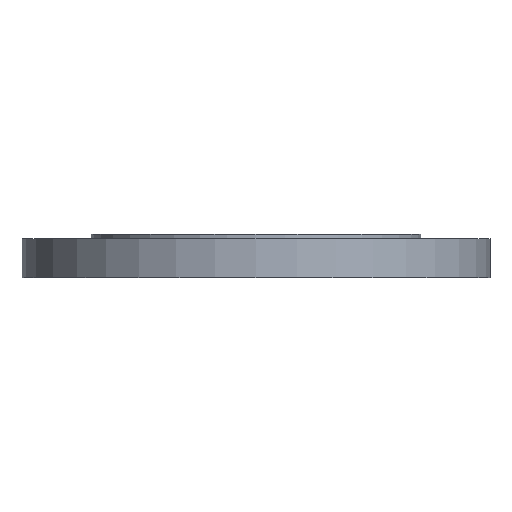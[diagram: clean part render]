
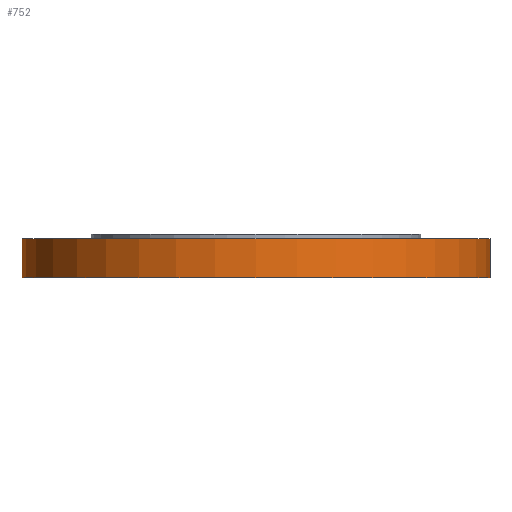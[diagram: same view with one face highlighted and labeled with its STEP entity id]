
A CAD part, front view. The second image highlights one B-rep face of the part: STEP entity #752.
In plain terms, the highlighted cylindrical face has radius 257.5 mm (diameter 515 mm), a partial arc.
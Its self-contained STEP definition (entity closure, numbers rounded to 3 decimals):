
#17 = VERTEX_POINT ( 'NONE', #1471 ) ;
#55 = VERTEX_POINT ( 'NONE', #1458 ) ;
#73 = VERTEX_POINT ( 'NONE', #1437 ) ;
#163 = ORIENTED_EDGE ( 'NONE', *, *, #1019, .F. ) ;
#164 = ORIENTED_EDGE ( 'NONE', *, *, #1135, .F. ) ;
#169 = ORIENTED_EDGE ( 'NONE', *, *, #319, .T. ) ;
#172 = ORIENTED_EDGE ( 'NONE', *, *, #324, .T. ) ;
#319 = EDGE_CURVE ( 'NONE', #55, #1123, #1333, .T. ) ;
#324 = EDGE_CURVE ( 'NONE', #1123, #73, #551, .T. ) ;
#513 = VECTOR ( 'NONE', #1327, 1000. ) ;
#519 = VECTOR ( 'NONE', #885, 1000. ) ;
#551 = CIRCLE ( 'NONE', #591, 257.5 ) ;
#553 = EDGE_LOOP ( 'NONE', ( #163, #164, #169, #172 ) ) ;
#590 = AXIS2_PLACEMENT_3D ( 'NONE', #1163, #1162, #1161 ) ;
#591 = AXIS2_PLACEMENT_3D ( 'NONE', #1326, #1324, #1323 ) ;
#752 = ADVANCED_FACE ( 'NONE', ( #1165 ), #1164, .T. ) ;
#763 = DIRECTION ( 'NONE',  ( -1., 0., 0. ) ) ;
#765 = DIRECTION ( 'NONE',  ( 0., 0., -1. ) ) ;
#766 = CARTESIAN_POINT ( 'NONE',  ( 0., 0., -48. ) ) ;
#773 = CARTESIAN_POINT ( 'NONE',  ( 257.5, 0., -5. ) ) ;
#885 = DIRECTION ( 'NONE',  ( 0., 0., 1. ) ) ;
#886 = CARTESIAN_POINT ( 'NONE',  ( -257.5, 0., -125. ) ) ;
#888 = LINE ( 'NONE', #886, #519 ) ;
#1019 = EDGE_CURVE ( 'NONE', #17, #73, #888, .T. ) ;
#1071 = AXIS2_PLACEMENT_3D ( 'NONE', #766, #765, #763 ) ;
#1074 = CIRCLE ( 'NONE', #1071, 257.5 ) ;
#1123 = VERTEX_POINT ( 'NONE', #773 ) ;
#1135 = EDGE_CURVE ( 'NONE', #55, #17, #1074, .T. ) ;
#1161 = DIRECTION ( 'NONE',  ( 1., 0., 0. ) ) ;
#1162 = DIRECTION ( 'NONE',  ( 0., 0., 1. ) ) ;
#1163 = CARTESIAN_POINT ( 'NONE',  ( 0., 0., -125. ) ) ;
#1164 = CYLINDRICAL_SURFACE ( 'NONE', #590, 257.5 ) ;
#1165 = FACE_OUTER_BOUND ( 'NONE', #553, .T. ) ;
#1323 = DIRECTION ( 'NONE',  ( -1., 0., 0. ) ) ;
#1324 = DIRECTION ( 'NONE',  ( 0., 0., -1. ) ) ;
#1326 = CARTESIAN_POINT ( 'NONE',  ( 0., 0., -5. ) ) ;
#1327 = DIRECTION ( 'NONE',  ( 0., 0., 1. ) ) ;
#1328 = CARTESIAN_POINT ( 'NONE',  ( 257.5, 0., -125. ) ) ;
#1333 = LINE ( 'NONE', #1328, #513 ) ;
#1437 = CARTESIAN_POINT ( 'NONE',  ( -257.5, 0., -5. ) ) ;
#1458 = CARTESIAN_POINT ( 'NONE',  ( 257.5, 0., -48. ) ) ;
#1471 = CARTESIAN_POINT ( 'NONE',  ( -257.5, 0., -48. ) ) ;
